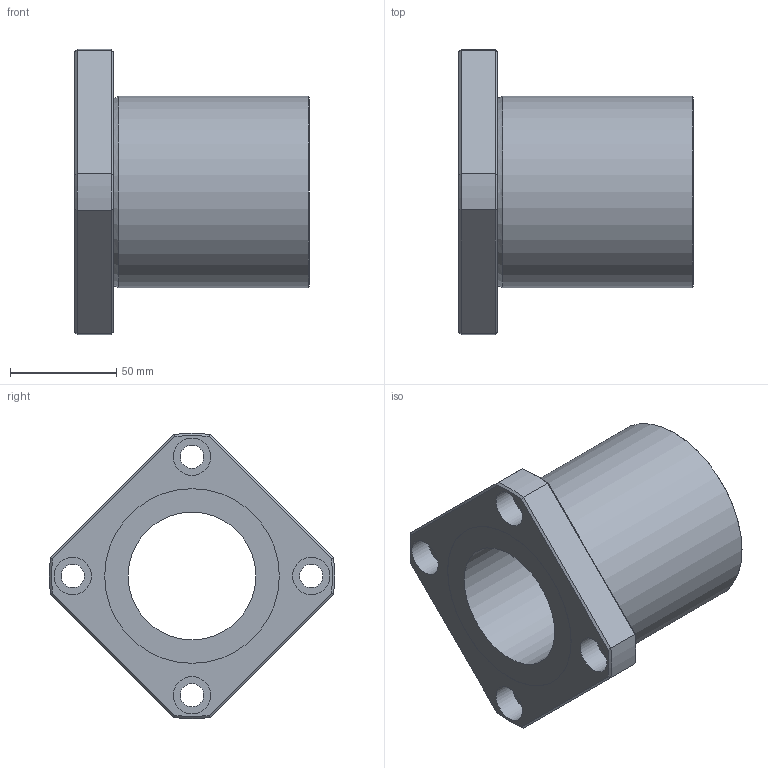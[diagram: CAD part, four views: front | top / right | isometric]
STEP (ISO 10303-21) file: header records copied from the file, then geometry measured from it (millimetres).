
FILE_DESCRIPTION((''),'2;1');
FILE_NAME('C:\Documents and Settings\土屋\デスクトップ\LFK60.stp','2025-05-16T09:48:23',('y'),(''),'Autodesk Inventor 11','Autodesk Inventor 11','');
FILE_SCHEMA(('AUTOMOTIVE_DESIGN { 1 0 10303 214 1 1 1 1 }'));
Length unit declared in the file: millimetre
Products named in the file (1): LFK(改1)(20170317)
Bounding box: 110 x 133.88 x 133.88 mm (x, y, z)
Volume: 457226.7 mm3; surface area: 72571.7 mm2
Topology: 1 solids, 1 shells, 47 faces, 96 edges, 58 vertices
Faces by surface type: plane 21, cylinder 16, cone 8, torus 1, bspline 1
Full cylindrical faces by diameter (mm): 11 x4, 17.5 x4, 60 x1, 82 x2, 90 x1
Entity records: 1257 total; most frequent: CARTESIAN_POINT 280, DIRECTION 202, ORIENTED_EDGE 164, AXIS2_PLACEMENT_3D 89, EDGE_CURVE 82, EDGE_LOOP 78, VERTEX_POINT 58, FACE_OUTER_BOUND 47
